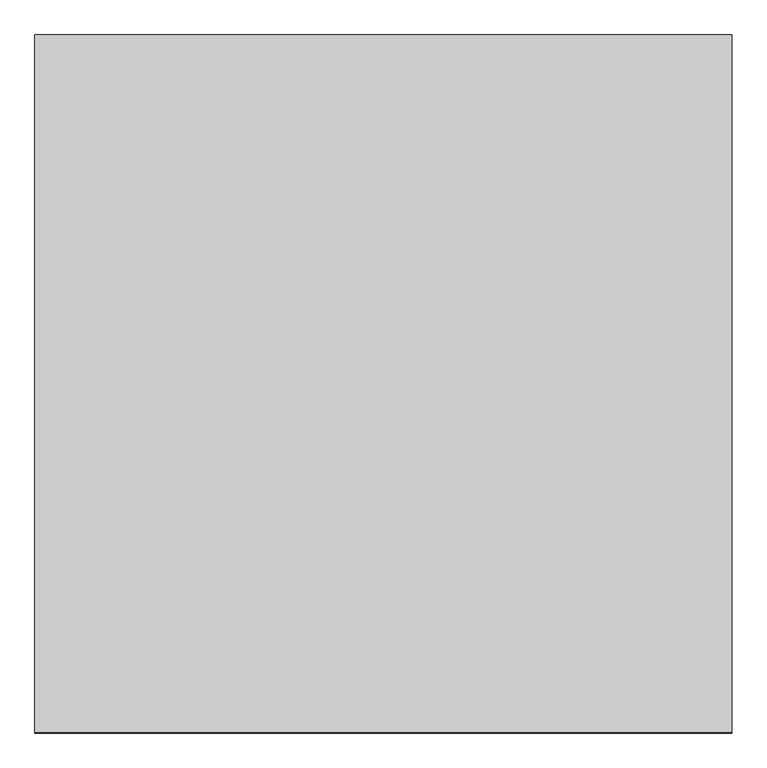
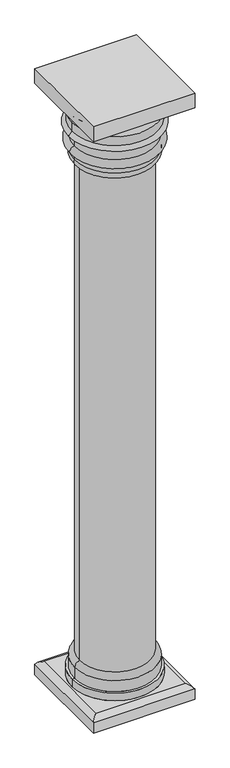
"""IFC4 building model written with IfcOpenShell, lengths in millimetres: column geometry, Pantheon Column : Pantheon Column: Portico."""

from ifc_helpers import new_model, si_unit, point, frame, origin, origin_with_axes, place, context, project, spatial, polyline, circle_curve, ellipse_curve, trimmed, source, transform, mapped, element, save
from ifc_brep_helpers import plane_surface, cylinder_surface, revolved_surface, advanced_brep


def column_31045826(model_context):
    return source(origin(), model_context, "Body", "AdvancedBrep", [
        advanced_brep(
        [(990.6, 990.6, 12496.8), (-990.6, 990.6, 12496.8), (-990.6, -990.6, 12496.8), (990.6, -990.6, 12496.8), (990.6, 990.6, 0.0), (990.6, -990.6, 0.0), (-990.6, -990.6, 0.0), (-990.6, 990.6, 0.0), (0.0, 685.8, 11014.7080458), (685.8, 0.0, 11014.7080458), (685.8, 0.0, 793.2849392), (0.0, 685.8, 793.2849392), (-685.8, 0.0, 11014.7080458), (-685.8, 0.0, 793.2849392), (-876.3, 876.3, 304.8), (-876.3, -876.3, 304.8), (876.3, -876.3, 304.8), (876.3, 876.3, 304.8), (838.2, 0.0, 304.8), (-838.2, 0.0, 304.8), (-990.6, 990.6, 215.9), (990.6, 990.6, 215.9), (-990.6, -990.6, 215.9), (990.6, -990.6, 215.9), (990.6, 990.6, 12192.0), (990.6, -990.6, 12192.0), (-990.6, -990.6, 12192.0), (-990.6, 990.6, 12192.0), (-939.8, 0.0, 12192.0), (939.8, 0.0, 12192.0), (-830.8758296, 0.0, 12085.4106708), (830.8758296, 0.0, 12085.4106708), (783.9607302, 0.0, 11143.318389), (-783.9607302, 0.0, 11143.318389), (783.9607302, 0.0, 11270.318389), (-783.9607302, 0.0, 11270.318389), (783.9607302, 0.0, 11422.3033535), (-783.9607302, 0.0, 11422.3033535), (783.9607302, 0.0, 11625.5033535), (-783.9607302, 0.0, 11625.5033535), (901.9353824, 0.0, 11672.524428), (-901.9353824, 0.0, 11672.524428), (830.8758296, 0.0, 11745.1405417), (-830.8758296, 0.0, 11745.1405417), (830.8758296, 0.0, 11922.9405417), (-830.8758296, 0.0, 11922.9405417), (838.2, 0.0, 457.2), (-838.2, 0.0, 457.2), (787.4, 0.0, 457.2), (-787.4, 0.0, 457.2), (787.4, 0.0, 685.8), (-787.4, 0.0, 685.8)],
        [
            (0, 1),
            (1, 2),
            (2, 3),
            (3, 0),
            (4, 5),
            (5, 6),
            (6, 7),
            (7, 4),
            (8, 9, circle_curve(frame((0.0, 0.0, 11014.7080458), z_axis=(0.0, 0.0, -1.0), x_axis=(1.0, 0.0, 0.0)), 685.8)),
            (9, 10),
            (10, 11, circle_curve(frame((0.0, 0.0, 793.2849392), z_axis=(0.0, 0.0, 1.0), x_axis=(1.0, 0.0, 0.0)), 685.8)),
            (11, 8),
            (12, 8, circle_curve(frame((0.0, 0.0, 11014.7080458), z_axis=(0.0, 0.0, -1.0), x_axis=(1.0, 0.0, 0.0)), 685.8)),
            (11, 13, circle_curve(frame((0.0, 0.0, 793.2849392), z_axis=(0.0, 0.0, 1.0), x_axis=(1.0, 0.0, 0.0)), 685.8)),
            (13, 12),
            (9, 12, circle_curve(frame((0.0, 0.0, 11014.7080458), z_axis=(0.0, 0.0, -1.0), x_axis=(1.0, 0.0, 0.0)), 685.8)),
            (13, 10, circle_curve(frame((0.0, 0.0, 793.2849392), z_axis=(0.0, 0.0, 1.0), x_axis=(1.0, 0.0, 0.0)), 685.8)),
            (14, 15),
            (15, 16),
            (16, 17),
            (17, 14),
            (18, 19, circle_curve(frame((0.0, 0.0, 304.8), z_axis=(0.0, 0.0, -1.0), x_axis=(-1.0, 0.0, 0.0)), 838.2)),
            (19, 18, circle_curve(frame((0.0, 0.0, 304.8), z_axis=(0.0, 0.0, -1.0), x_axis=(1.0, 0.0, 0.0)), 838.2)),
            (7, 20),
            (20, 21),
            (21, 4),
            (6, 22),
            (22, 20),
            (5, 23),
            (23, 22),
            (21, 23),
            (22, 15, ellipse_curve(frame((-844.6444319, -844.6444319, 146.1714125), z_axis=(-0.7071067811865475, 0.7071067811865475, 0.0), x_axis=(-0.7071067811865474, -0.7071067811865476, 0.0)), 228.7579671, 161.7563098)),
            (14, 20, ellipse_curve(frame((-844.6444319, 844.6444319, 146.1714125), z_axis=(-0.7071067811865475, -0.7071067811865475, 0.0), x_axis=(0.7071067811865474, -0.7071067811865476, 0.0)), 228.7579671, 161.7563098)),
            (23, 16, ellipse_curve(frame((844.6444319, -844.6444319, 146.1714125), z_axis=(-0.7071067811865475, -0.7071067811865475, 0.0), x_axis=(0.7071067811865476, -0.7071067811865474, 0.0)), 228.7579671, 161.7563098)),
            (21, 17, ellipse_curve(frame((844.6444319, 844.6444319, 146.1714125), z_axis=(0.7071067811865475, -0.7071067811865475, 0.0), x_axis=(0.7071067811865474, 0.7071067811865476, 0.0)), 228.7579671, 161.7563098)),
            (24, 25),
            (25, 26),
            (26, 27),
            (27, 24),
            (28, 29, circle_curve(frame((0.0, 0.0, 12192.0), z_axis=(0.0, 0.0, 1.0), x_axis=(-1.0, 0.0, 0.0)), 939.8)),
            (29, 28, circle_curve(frame((0.0, 0.0, 12192.0), z_axis=(0.0, 0.0, 1.0), x_axis=(1.0, 0.0, 0.0)), 939.8)),
            (0, 24),
            (27, 1),
            (26, 2),
            (25, 3),
            (28, 30),
            (30, 31, circle_curve(frame((0.0, 0.0, 12085.4106708), z_axis=(0.0, 0.0, 1.0), x_axis=(-1.0, 0.0, 0.0)), 830.8758296)),
            (31, 29),
            (32, 33, circle_curve(frame((0.0, 0.0, 11143.318389), z_axis=(0.0, 0.0, -1.0), x_axis=(-1.0, 0.0, 0.0)), 783.9607302)),
            (33, 12, circle_curve(frame((-709.9409235, 0.0, 11098.0480302), z_axis=(0.0, -1.0, 0.0), x_axis=(1.0, 0.0, 0.0)), 86.7659909)),
            (9, 32, circle_curve(frame((709.9409235, 0.0, 11098.0480302), z_axis=(0.0, -1.0, 0.0), x_axis=(-1.0, 0.0, 0.0)), 86.7659909)),
            (32, 34),
            (34, 35, circle_curve(frame((0.0, 0.0, 11270.318389), z_axis=(0.0, 0.0, -1.0), x_axis=(-1.0, 0.0, 0.0)), 783.9607302)),
            (35, 33),
            (34, 36, circle_curve(frame((803.5322839, 0.0, 11346.3108712), z_axis=(0.0, -1.0, 0.0), x_axis=(-1.0, 0.0, 0.0)), 78.4723077)),
            (36, 37, circle_curve(frame((0.0, 0.0, 11422.3033535), z_axis=(0.0, 0.0, -1.0), x_axis=(-1.0, 0.0, 0.0)), 783.9607302)),
            (37, 35, circle_curve(frame((-803.5322839, 0.0, 11346.3108712), z_axis=(0.0, -1.0, 0.0), x_axis=(1.0, 0.0, 0.0)), 78.4723077)),
            (36, 38),
            (38, 39, circle_curve(frame((0.0, 0.0, 11625.5033535), z_axis=(0.0, 0.0, -1.0), x_axis=(-1.0, 0.0, 0.0)), 783.9607302)),
            (39, 37),
            (38, 40),
            (40, 41, circle_curve(frame((0.0, 0.0, 11672.524428), z_axis=(0.0, 0.0, -1.0), x_axis=(-1.0, 0.0, 0.0)), 901.9353824)),
            (41, 39),
            (40, 42),
            (42, 43, circle_curve(frame((0.0, 0.0, 11745.1405417), z_axis=(0.0, 0.0, -1.0), x_axis=(-1.0, 0.0, 0.0)), 830.8758296)),
            (43, 41),
            (42, 44),
            (44, 45, circle_curve(frame((0.0, 0.0, 11922.9405417), z_axis=(0.0, 0.0, -1.0), x_axis=(-1.0, 0.0, 0.0)), 830.8758296)),
            (45, 43),
            (30, 45, circle_curve(frame((-898.6674324, 0.0, 12004.1756062), z_axis=(0.0, 1.0, 0.0), x_axis=(1.0, 0.0, 0.0)), 105.8056574)),
            (44, 31, circle_curve(frame((898.6674324, 0.0, 12004.1756062), z_axis=(0.0, 1.0, 0.0), x_axis=(-1.0, 0.0, 0.0)), 105.8056574)),
            (31, 30, circle_curve(frame((0.0, 0.0, 12085.4106708), z_axis=(0.0, 0.0, 1.0), x_axis=(1.0, 0.0, 0.0)), 830.8758296)),
            (33, 32, circle_curve(frame((0.0, 0.0, 11143.318389), z_axis=(0.0, 0.0, -1.0), x_axis=(1.0, 0.0, 0.0)), 783.9607302)),
            (35, 34, circle_curve(frame((0.0, 0.0, 11270.318389), z_axis=(0.0, 0.0, -1.0), x_axis=(1.0, 0.0, 0.0)), 783.9607302)),
            (37, 36, circle_curve(frame((0.0, 0.0, 11422.3033535), z_axis=(0.0, 0.0, -1.0), x_axis=(1.0, 0.0, 0.0)), 783.9607302)),
            (39, 38, circle_curve(frame((0.0, 0.0, 11625.5033535), z_axis=(0.0, 0.0, -1.0), x_axis=(1.0, 0.0, 0.0)), 783.9607302)),
            (41, 40, circle_curve(frame((0.0, 0.0, 11672.524428), z_axis=(0.0, 0.0, -1.0), x_axis=(1.0, 0.0, 0.0)), 901.9353824)),
            (43, 42, circle_curve(frame((0.0, 0.0, 11745.1405417), z_axis=(0.0, 0.0, -1.0), x_axis=(1.0, 0.0, 0.0)), 830.8758296)),
            (45, 44, circle_curve(frame((0.0, 0.0, 11922.9405417), z_axis=(0.0, 0.0, -1.0), x_axis=(1.0, 0.0, 0.0)), 830.8758296)),
            (46, 47, circle_curve(frame((0.0, 0.0, 457.2), z_axis=(0.0, 0.0, -1.0), x_axis=(-1.0, 0.0, 0.0)), 838.2)),
            (47, 19),
            (18, 46),
            (46, 48),
            (48, 49, circle_curve(frame((0.0, 0.0, 457.2), z_axis=(0.0, 0.0, -1.0), x_axis=(-1.0, 0.0, 0.0)), 787.4)),
            (49, 47),
            (48, 50),
            (50, 51, circle_curve(frame((0.0, 0.0, 685.8), z_axis=(0.0, 0.0, -1.0), x_axis=(-1.0, 0.0, 0.0)), 787.4)),
            (51, 49),
            (50, 10, circle_curve(frame((655.1168063, 0.0, 662.5205861), z_axis=(0.0, -1.0, 0.0), x_axis=(-1.0, 0.0, 0.0)), 134.31595)),
            (13, 51, circle_curve(frame((-655.1168063, 0.0, 662.5205861), z_axis=(0.0, -1.0, 0.0), x_axis=(1.0, 0.0, 0.0)), 134.31595)),
            (47, 46, circle_curve(frame((0.0, 0.0, 457.2), z_axis=(0.0, 0.0, -1.0), x_axis=(1.0, 0.0, 0.0)), 838.2)),
            (49, 48, circle_curve(frame((0.0, 0.0, 457.2), z_axis=(0.0, 0.0, -1.0), x_axis=(1.0, 0.0, 0.0)), 787.4)),
            (51, 50, circle_curve(frame((0.0, 0.0, 685.8), z_axis=(0.0, 0.0, -1.0), x_axis=(1.0, 0.0, 0.0)), 787.4)),
        ],
        [
            plane_surface(frame((685.8, 0.0, 12496.8), z_axis=(0.0, 0.0, 1.0), x_axis=(0.0, 1.0, 0.0))),
            plane_surface(frame((685.8, 0.0, 0.0), z_axis=(0.0, 0.0, -1.0), x_axis=(0.0, -1.0, 0.0))),
            cylinder_surface(origin_with_axes(), 685.8),
            plane_surface(frame((-990.6, 990.6, 304.8), z_axis=(0.0, 0.0, 1.0), x_axis=(-1.0, 0.0, 0.0))),
            plane_surface(frame((990.6, 990.6, 304.8), z_axis=(0.0, 1.0, 0.0), x_axis=(0.0, 0.0, -1.0))),
            plane_surface(frame((-990.6, 990.6, 304.8), z_axis=(-1.0, 0.0, 0.0), x_axis=(0.0, 0.0, -1.0))),
            plane_surface(frame((-990.6, -990.6, 304.8), z_axis=(0.0, -1.0, 0.0), x_axis=(0.0, 0.0, -1.0))),
            plane_surface(frame((990.6, -990.6, 304.8), z_axis=(1.0, 0.0, 0.0), x_axis=(0.0, 0.0, -1.0))),
            cylinder_surface(frame((-844.6444319, 990.6, 146.1714125), z_axis=(0.0, -1.0, 0.0), x_axis=(1.0, 0.0, 0.0)), 161.7563098),
            cylinder_surface(frame((-990.6, -844.6444319, 146.1714125), z_axis=(1.0, 0.0, 0.0), x_axis=(0.0, 1.0, 0.0)), 161.7563098),
            cylinder_surface(frame((844.6444319, -990.6, 146.1714125), z_axis=(0.0, 1.0, 0.0), x_axis=(-1.0, 0.0, 0.0)), 161.7563098),
            cylinder_surface(frame((990.6, 844.6444319, 146.1714125), z_axis=(-1.0, 0.0, 0.0), x_axis=(0.0, -1.0, 0.0)), 161.7563098),
            plane_surface(frame((-990.6, 990.6, 12192.0), z_axis=(0.0, 0.0, -1.0), x_axis=(1.0, 0.0, 0.0))),
            plane_surface(frame((990.6, 990.6, 12496.8), z_axis=(0.0, 1.0, 0.0), x_axis=(0.0, 0.0, -1.0))),
            plane_surface(frame((-990.6, 990.6, 12496.8), z_axis=(-1.0, 0.0, 0.0), x_axis=(0.0, 0.0, -1.0))),
            plane_surface(frame((-990.6, -990.6, 12496.8), z_axis=(0.0, -1.0, 0.0), x_axis=(0.0, 0.0, -1.0))),
            plane_surface(frame((990.6, -990.6, 12496.8), z_axis=(1.0, 0.0, 0.0), x_axis=(0.0, 0.0, -1.0))),
            revolved_surface(polyline([(-830.8758296, 0.0, 12085.4106708), (-939.8, 0.0, 12192.0)]), (0.0, 0.0, 0.0), (0.0, 0.0, 1.0)),
            revolved_surface(trimmed(ellipse_curve(frame((-709.9409235, 0.0, 11098.0480302), z_axis=(0.0, 1.0, 0.0), x_axis=(1.0, 0.0, 0.0)), 86.7659909, 86.7659909), [point((-685.8, 0.0, 11014.7080458))], [point((-783.9607302, 0.0, 11143.318389))], True, "CARTESIAN"), (0.0, 0.0, 0.0), (0.0, 0.0, 1.0)),
            cylinder_surface(frame((0.0, 0.0, 0.0), z_axis=(0.0, 0.0, 1.0), x_axis=(-1.0, 0.0, 0.0)), 783.9607302),
            revolved_surface(trimmed(ellipse_curve(frame((-803.5322839, 0.0, 11346.3108712), z_axis=(0.0, 1.0, 0.0), x_axis=(1.0, 0.0, 0.0)), 78.4723077, 78.4723077), [point((-783.9607302, 0.0, 11270.318389))], [point((-783.9607302, 0.0, 11422.3033535))], True, "CARTESIAN"), (0.0, 0.0, 0.0), (0.0, 0.0, 1.0)),
            revolved_surface(polyline([(-783.9607302, 0.0, 11625.5033535), (-901.9353824, 0.0, 11672.524428)]), (0.0, 0.0, 0.0), (0.0, 0.0, 1.0)),
            revolved_surface(polyline([(-901.9353824, 0.0, 11672.524428), (-830.8758296, 0.0, 11745.1405417)]), (0.0, 0.0, 0.0), (0.0, 0.0, 1.0)),
            cylinder_surface(frame((0.0, 0.0, 0.0), z_axis=(0.0, 0.0, 1.0), x_axis=(-1.0, 0.0, 0.0)), 830.8758296),
            revolved_surface(trimmed(ellipse_curve(frame((-898.6674324, 0.0, 12004.1756062), z_axis=(0.0, -1.0, 0.0), x_axis=(1.0, 0.0, 0.0)), 105.8056574, 105.8056574), [point((-830.8758296, 0.0, 11922.9405417))], [point((-830.8758296, 0.0, 12085.4106708))], True, "CARTESIAN"), (0.0, 0.0, 0.0), (0.0, 0.0, 1.0)),
            revolved_surface(polyline([(830.8758296, 0.0, 12085.4106708), (939.8, 0.0, 12192.0)]), (0.0, 0.0, 0.0), (0.0, 0.0, 1.0)),
            revolved_surface(trimmed(ellipse_curve(frame((709.9409235, 0.0, 11098.0480302), z_axis=(0.0, -1.0, 0.0), x_axis=(-1.0, 0.0, 0.0)), 86.7659909, 86.7659909), [point((685.8, 0.0, 11014.7080458))], [point((783.9607302, 0.0, 11143.318389))], True, "CARTESIAN"), (0.0, 0.0, 0.0), (0.0, 0.0, 1.0)),
            cylinder_surface(origin_with_axes(), 783.9607302),
            revolved_surface(trimmed(ellipse_curve(frame((803.5322839, 0.0, 11346.3108712), z_axis=(0.0, -1.0, 0.0), x_axis=(-1.0, 0.0, 0.0)), 78.4723077, 78.4723077), [point((783.9607302, 0.0, 11270.318389))], [point((783.9607302, 0.0, 11422.3033535))], True, "CARTESIAN"), (0.0, 0.0, 0.0), (0.0, 0.0, 1.0)),
            revolved_surface(polyline([(783.9607302, 0.0, 11625.5033535), (901.9353824, 0.0, 11672.524428)]), (0.0, 0.0, 0.0), (0.0, 0.0, 1.0)),
            revolved_surface(polyline([(901.9353824, 0.0, 11672.524428), (830.8758296, 0.0, 11745.1405417)]), (0.0, 0.0, 0.0), (0.0, 0.0, 1.0)),
            cylinder_surface(origin_with_axes(), 830.8758296),
            revolved_surface(trimmed(ellipse_curve(frame((898.6674324, 0.0, 12004.1756062), z_axis=(0.0, 1.0, 0.0), x_axis=(-1.0, 0.0, 0.0)), 105.8056574, 105.8056574), [point((830.8758296, 0.0, 11922.9405417))], [point((830.8758296, 0.0, 12085.4106708))], True, "CARTESIAN"), (0.0, 0.0, 0.0), (0.0, 0.0, 1.0)),
            cylinder_surface(frame((0.0, 0.0, 0.0), z_axis=(0.0, 0.0, 1.0), x_axis=(-1.0, 0.0, 0.0)), 838.2),
            plane_surface(frame((0.0, 0.0, 457.2), z_axis=(0.0, 0.0, 1.0), x_axis=(-1.0, 0.0, 0.0))),
            cylinder_surface(frame((0.0, 0.0, 0.0), z_axis=(0.0, 0.0, 1.0), x_axis=(-1.0, 0.0, 0.0)), 787.4),
            revolved_surface(trimmed(ellipse_curve(frame((-655.1168063, 0.0, 662.5205861), z_axis=(0.0, 1.0, 0.0), x_axis=(1.0, 0.0, 0.0)), 134.31595, 134.31595), [point((-787.4, 0.0, 685.8))], [point((-685.8, 0.0, 793.2849392))], True, "CARTESIAN"), (0.0, 0.0, 0.0), (0.0, 0.0, 1.0)),
            cylinder_surface(origin_with_axes(), 838.2),
            plane_surface(frame((0.0, 0.0, 457.2), z_axis=(0.0, 0.0, 1.0), x_axis=(1.0, 0.0, 0.0))),
            cylinder_surface(origin_with_axes(), 787.4),
            revolved_surface(trimmed(ellipse_curve(frame((655.1168063, 0.0, 662.5205861), z_axis=(0.0, -1.0, 0.0), x_axis=(-1.0, 0.0, 0.0)), 134.31595, 134.31595), [point((787.4, 0.0, 685.8))], [point((685.8, 0.0, 793.2849392))], True, "CARTESIAN"), (0.0, 0.0, 0.0), (0.0, 0.0, 1.0)),
        ],
        [
            (0, [[1, 2, 3, 4]]),
            (1, [[5, 6, 7, 8]]),
            (2, [[9, 10, 11, 12]]),
            (2, [[13, -12, 14, 15]]),
            (2, [[16, -15, 17, -10]]),
            (3, [[18, 19, 20, 21], [22, 23]]),
            (4, [[-8, 24, 25, 26]]),
            (5, [[-7, 27, 28, -24]]),
            (6, [[-6, 29, 30, -27]]),
            (7, [[-5, -26, 31, -29]]),
            (8, [[32, -18, 33, -28]]),
            (9, [[-32, -30, 34, -19]]),
            (10, [[-34, -31, 35, -20]]),
            (11, [[-33, -21, -35, -25]]),
            (12, [[36, 37, 38, 39], [40, 41]]),
            (13, [[-1, 42, -39, 43]]),
            (14, [[-2, -43, -38, 44]]),
            (15, [[-3, -44, -37, 45]]),
            (16, [[-4, -45, -36, -42]]),
            (17, [[46, 47, 48, -40]]),
            (18, [[49, 50, -16, 51]]),
            (19, [[-49, 52, 53, 54]]),
            (20, [[-53, 55, 56, 57]]),
            (19, [[-56, 58, 59, 60]]),
            (21, [[-59, 61, 62, 63]]),
            (22, [[-62, 64, 65, 66]]),
            (23, [[-65, 67, 68, 69]]),
            (24, [[-47, 70, -68, 71]]),
            (25, [[-46, -41, -48, 72]]),
            (26, [[-50, 73, -51, -9, -13]]),
            (27, [[-54, 74, -52, -73]]),
            (28, [[-57, 75, -55, -74]]),
            (27, [[-60, 76, -58, -75]]),
            (29, [[-63, 77, -61, -76]]),
            (30, [[-66, 78, -64, -77]]),
            (31, [[-69, 79, -67, -78]]),
            (32, [[-70, -72, -71, -79]]),
            (33, [[80, 81, -22, 82]]),
            (34, [[-80, 83, 84, 85]]),
            (35, [[-84, 86, 87, 88]]),
            (36, [[-87, 89, -17, 90]]),
            (37, [[-81, 91, -82, -23]]),
            (38, [[-85, 92, -83, -91]]),
            (39, [[-88, 93, -86, -92]]),
            (40, [[-90, -14, -11, -89, -93]]),
        ],
    ),
    ])


if __name__ == "__main__":
    model = new_model("IFC4")
    model_context = context("Model", 3, world=origin())
    ifc_project = project(units=[si_unit("LENGTHUNIT", "METRE", prefix="MILLI")], contexts=[model_context])
    site = spatial("IfcSite", under=ifc_project)
    building = spatial("IfcBuilding", under=site)
    placement = place(None, origin())
    column_shape = column_31045826(model_context)
    element("IfcColumn", 1, ObjectType="Pantheon Column : Pantheon Column: Portico", at=placement, inside=building, context=model_context, shape_type="MappedRepresentation", body=[
        mapped(column_shape, transform((0.0, 0.0, 0.0), x_axis=(1.0, 0.0, 0.0), y_axis=(0.0, 1.0, 0.0), z_axis=(0.0, 0.0, 1.0))),
    ])
    save(model, "model.ifc")
